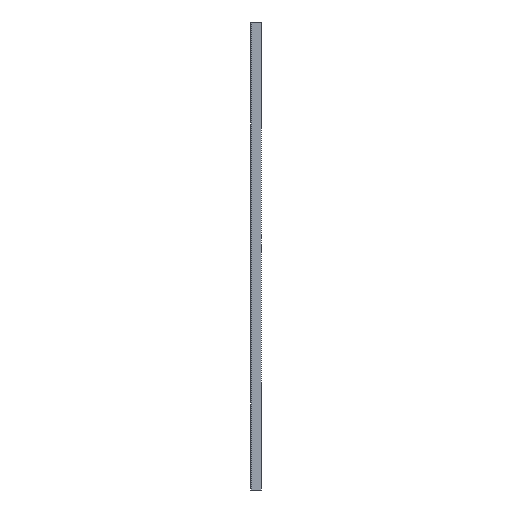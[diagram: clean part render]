
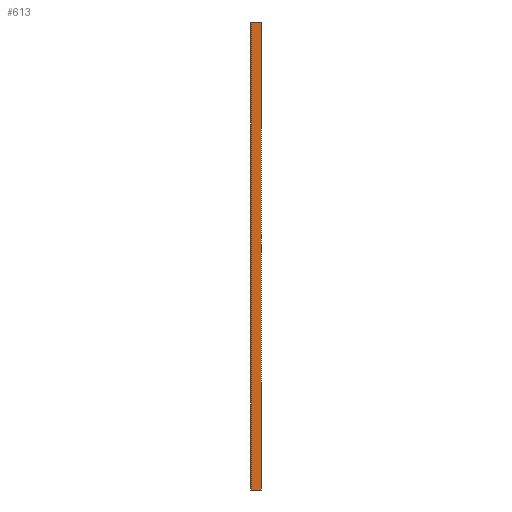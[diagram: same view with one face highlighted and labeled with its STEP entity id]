
A CAD part, left-side view. The second image highlights one B-rep face of the part: STEP entity #613.
In plain terms, the highlighted planar face has unit normal (-1, 0, 0).
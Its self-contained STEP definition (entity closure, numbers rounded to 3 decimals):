
#37 = ORIENTED_EDGE ( 'NONE', *, *, #799, .T. ) ;
#50 = AXIS2_PLACEMENT_3D ( 'NONE', #1010, #682, #248 ) ;
#160 = FACE_OUTER_BOUND ( 'NONE', #920, .T. ) ;
#161 = VERTEX_POINT ( 'NONE', #801 ) ;
#221 = CARTESIAN_POINT ( 'NONE',  ( -528., -17., -694. ) ) ;
#245 = DIRECTION ( 'NONE',  ( 0., 1., 0. ) ) ;
#248 = DIRECTION ( 'NONE',  ( 0., 0., 1. ) ) ;
#266 = EDGE_CURVE ( 'NONE', #410, #901, #804, .T. ) ;
#314 = DIRECTION ( 'NONE',  ( 0., 0., 1. ) ) ;
#369 = DIRECTION ( 'NONE',  ( 0., 1., 0. ) ) ;
#375 = CARTESIAN_POINT ( 'NONE',  ( -528., -17., -694. ) ) ;
#387 = DIRECTION ( 'NONE',  ( 0., 0., 1. ) ) ;
#397 = CARTESIAN_POINT ( 'NONE',  ( -528., 0., 40. ) ) ;
#400 = VECTOR ( 'NONE', #245, 1000. ) ;
#410 = VERTEX_POINT ( 'NONE', #822 ) ;
#449 = LINE ( 'NONE', #793, #590 ) ;
#452 = ORIENTED_EDGE ( 'NONE', *, *, #266, .F. ) ;
#590 = VECTOR ( 'NONE', #369, 1000. ) ;
#598 = EDGE_CURVE ( 'NONE', #866, #410, #857, .T. ) ;
#613 = ADVANCED_FACE ( 'NONE', ( #160 ), #1102, .T. ) ;
#634 = CARTESIAN_POINT ( 'NONE',  ( -528., 0., -694. ) ) ;
#682 = DIRECTION ( 'NONE',  ( -1., 0., 0. ) ) ;
#725 = VECTOR ( 'NONE', #387, 1000. ) ;
#757 = ORIENTED_EDGE ( 'NONE', *, *, #1110, .T. ) ;
#758 = CARTESIAN_POINT ( 'NONE',  ( -528., -17., -694. ) ) ;
#793 = CARTESIAN_POINT ( 'NONE',  ( -528., -17., 40. ) ) ;
#799 = EDGE_CURVE ( 'NONE', #161, #901, #449, .T. ) ;
#801 = CARTESIAN_POINT ( 'NONE',  ( -528., -17., 40. ) ) ;
#804 = LINE ( 'NONE', #634, #725 ) ;
#822 = CARTESIAN_POINT ( 'NONE',  ( -528., 0., -694. ) ) ;
#846 = ORIENTED_EDGE ( 'NONE', *, *, #598, .F. ) ;
#857 = LINE ( 'NONE', #758, #400 ) ;
#866 = VERTEX_POINT ( 'NONE', #221 ) ;
#901 = VERTEX_POINT ( 'NONE', #397 ) ;
#920 = EDGE_LOOP ( 'NONE', ( #452, #846, #757, #37 ) ) ;
#1010 = CARTESIAN_POINT ( 'NONE',  ( -528., -17., -694. ) ) ;
#1018 = VECTOR ( 'NONE', #314, 1000. ) ;
#1068 = LINE ( 'NONE', #375, #1018 ) ;
#1102 = PLANE ( 'NONE',  #50 ) ;
#1110 = EDGE_CURVE ( 'NONE', #866, #161, #1068, .T. ) ;
